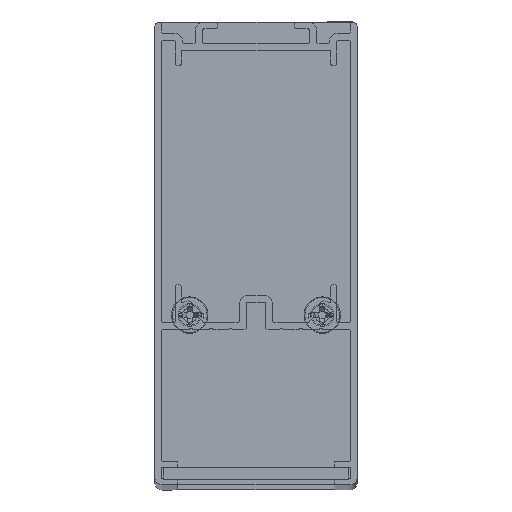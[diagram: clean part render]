
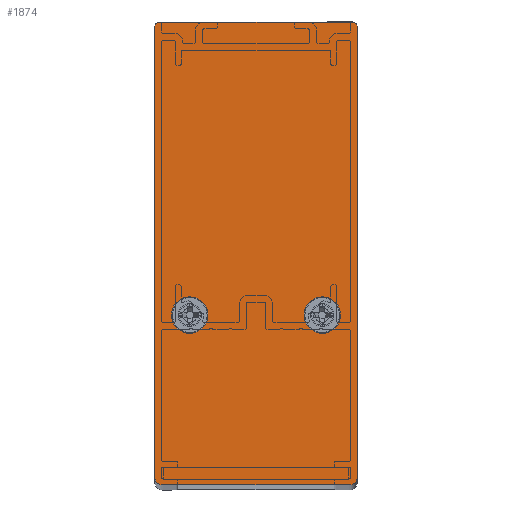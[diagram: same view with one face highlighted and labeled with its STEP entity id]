
A CAD part, top view. The second image highlights one B-rep face of the part: STEP entity #1874.
In plain terms, the highlighted planar face has unit normal (0, 0, 1).
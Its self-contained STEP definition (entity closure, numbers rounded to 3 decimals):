
#1874=ADVANCED_FACE('',(#3485,#3487,#3489),#3491,.T.);
#3485=FACE_BOUND('',#3486,.T.);
#3486=EDGE_LOOP('',(#5166,#5167,#5168,#5169,#5170,#5171,#5172,#5173));
#3487=FACE_BOUND('',#3488,.T.);
#3488=EDGE_LOOP('',(#5174));
#3489=FACE_BOUND('',#3490,.T.);
#3490=EDGE_LOOP('',(#5175));
#3491=PLANE('',#3492);
#3492=AXIS2_PLACEMENT_3D('',#3493,#3494,#3495);
#3493=CARTESIAN_POINT('',(0.,0.,251.));
#3494=DIRECTION('',(0.,0.,1.));
#3495=DIRECTION('',(1.,0.,0.));
#5166=ORIENTED_EDGE('',*,*,#5946,.T.);
#5167=ORIENTED_EDGE('',*,*,#5947,.T.);
#5168=ORIENTED_EDGE('',*,*,#5948,.T.);
#5169=ORIENTED_EDGE('',*,*,#5949,.T.);
#5170=ORIENTED_EDGE('',*,*,#5950,.T.);
#5171=ORIENTED_EDGE('',*,*,#5951,.T.);
#5172=ORIENTED_EDGE('',*,*,#5952,.T.);
#5173=ORIENTED_EDGE('',*,*,#5953,.T.);
#5174=ORIENTED_EDGE('',*,*,#5954,.T.);
#5175=ORIENTED_EDGE('',*,*,#5955,.T.);
#5946=EDGE_CURVE('',#6965,#6966,#6967,.T.);
#5947=EDGE_CURVE('',#6966,#6968,#6969,.T.);
#5948=EDGE_CURVE('',#6968,#6970,#6971,.T.);
#5949=EDGE_CURVE('',#6970,#6972,#6973,.T.);
#5950=EDGE_CURVE('',#6972,#6974,#6975,.T.);
#5951=EDGE_CURVE('',#6974,#6976,#6977,.T.);
#5952=EDGE_CURVE('',#6976,#6978,#6979,.T.);
#5953=EDGE_CURVE('',#6978,#6965,#6980,.T.);
#5954=EDGE_CURVE('',#6981,#6981,#6982,.F.);
#5955=EDGE_CURVE('',#6983,#6983,#6984,.F.);
#6965=VERTEX_POINT('',#9349);
#6966=VERTEX_POINT('',#9350);
#6967=LINE('',#9351,#9352);
#6968=VERTEX_POINT('',#9354);
#6969=CIRCLE('',#9355,0.9);
#6970=VERTEX_POINT('',#9359);
#6971=LINE('',#9360,#9361);
#6972=VERTEX_POINT('',#9363);
#6973=CIRCLE('',#9364,0.9);
#6974=VERTEX_POINT('',#9368);
#6975=LINE('',#9369,#9370);
#6976=VERTEX_POINT('',#9372);
#6977=CIRCLE('',#9373,1.35);
#6978=VERTEX_POINT('',#9377);
#6979=LINE('',#9378,#9379);
#6980=CIRCLE('',#9381,1.35);
#6981=VERTEX_POINT('',#9385);
#6982=CIRCLE('',#9386,3.);
#6983=VERTEX_POINT('',#9390);
#6984=CIRCLE('',#9391,3.);
#9349=CARTESIAN_POINT('',(17.5,-73.75,251.));
#9350=CARTESIAN_POINT('',(17.5,4.,251.));
#9351=CARTESIAN_POINT('',(17.5,-73.75,251.));
#9352=VECTOR('',#9353,1.);
#9353=DIRECTION('',(0.,1.,0.));
#9354=CARTESIAN_POINT('',(16.6,4.9,251.));
#9355=AXIS2_PLACEMENT_3D('',#9356,#9357,#9358);
#9356=CARTESIAN_POINT('',(16.6,4.,251.));
#9357=DIRECTION('',(-0.,0.,1.));
#9358=DIRECTION('',(1.,0.,0.));
#9359=CARTESIAN_POINT('',(-16.6,4.9,251.));
#9360=CARTESIAN_POINT('',(16.6,4.9,251.));
#9361=VECTOR('',#9362,1.);
#9362=DIRECTION('',(-1.,0.,0.));
#9363=CARTESIAN_POINT('',(-17.5,4.,251.));
#9364=AXIS2_PLACEMENT_3D('',#9365,#9366,#9367);
#9365=CARTESIAN_POINT('',(-16.6,4.,251.));
#9366=DIRECTION('',(0.,0.,1.));
#9367=DIRECTION('',(0.,1.,0.));
#9368=CARTESIAN_POINT('',(-17.5,-73.75,251.));
#9369=CARTESIAN_POINT('',(-17.5,4.,251.));
#9370=VECTOR('',#9371,1.);
#9371=DIRECTION('',(0.,-1.,0.));
#9372=CARTESIAN_POINT('',(-16.15,-75.1,251.));
#9373=AXIS2_PLACEMENT_3D('',#9374,#9375,#9376);
#9374=CARTESIAN_POINT('',(-16.15,-73.75,251.));
#9375=DIRECTION('',(0.,0.,1.));
#9376=DIRECTION('',(-1.,0.,0.));
#9377=CARTESIAN_POINT('',(16.15,-75.1,251.));
#9378=CARTESIAN_POINT('',(-16.15,-75.1,251.));
#9379=VECTOR('',#9380,1.);
#9380=DIRECTION('',(1.,0.,0.));
#9381=AXIS2_PLACEMENT_3D('',#9382,#9383,#9384);
#9382=CARTESIAN_POINT('',(16.15,-73.75,251.));
#9383=DIRECTION('',(0.,-0.,1.));
#9384=DIRECTION('',(0.,-1.,0.));
#9385=CARTESIAN_POINT('',(8.45,-45.75,251.));
#9386=AXIS2_PLACEMENT_3D('',#9387,#9388,#9389);
#9387=CARTESIAN_POINT('',(11.45,-45.75,251.));
#9388=DIRECTION('',(0.,0.,1.));
#9389=DIRECTION('',(-1.,0.,0.));
#9390=CARTESIAN_POINT('',(-8.45,-45.75,251.));
#9391=AXIS2_PLACEMENT_3D('',#9392,#9393,#9394);
#9392=CARTESIAN_POINT('',(-11.45,-45.75,251.));
#9393=DIRECTION('',(0.,0.,1.));
#9394=DIRECTION('',(1.,0.,0.));
